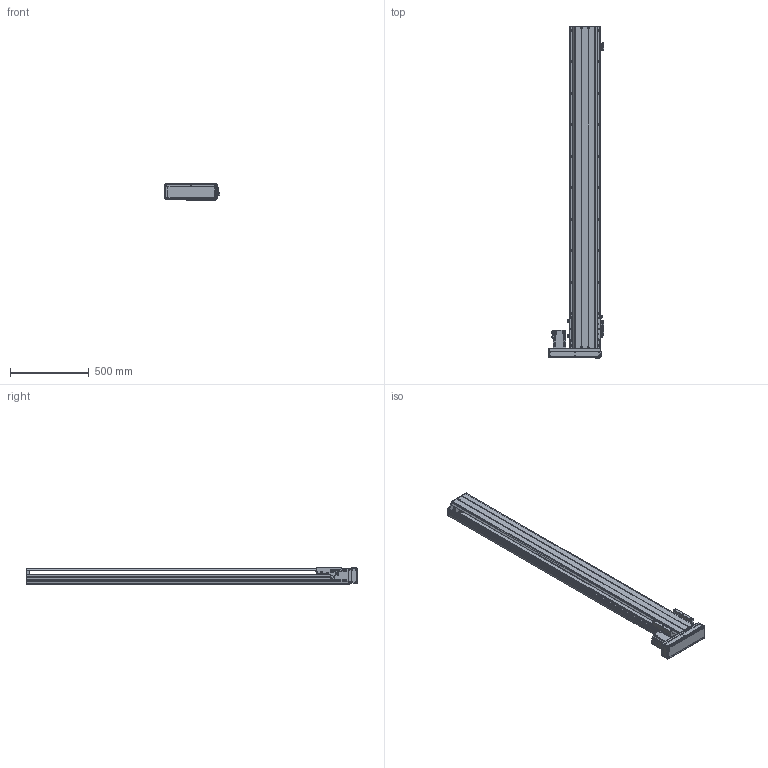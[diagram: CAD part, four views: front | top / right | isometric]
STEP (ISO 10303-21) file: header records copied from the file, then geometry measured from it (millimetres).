
FILE_DESCRIPTION(/* description */ ('MANUFACTURE'),/* implementation_level */ '2;1');
FILE_NAME(/* name */ '\\192.168.0.160\disk1\HAN SHIN Master\B-설계부문\C-표준\B-2024년\BC02-표준도면\+로봇 개선표준도면\표준 승인도 작업 폴더\3D\HG200\HG200병렬\좌병렬\HG200-L70-N-1800-R10.stp',/* time_stamp */ '2024-02-23T16:43:19+09:00',/* author */ ('User'),/* organization */ (''),/* preprocessor_version */ 'ST-DEVELOPER v18.1',/* originating_system */ 'Autodesk Inventor 2022',/* authorisation */ 'LIP');
FILE_SCHEMA (('AUTOMOTIVE_DESIGN { 1 0 10303 214 3 1 1 }'));
Products named in the file (22): HG200-L70-N-0500-R10; HR200 S BASE-개선; HR180 FRONT BLOCK; HR180 FRONT BLOCK_1; HR200 FRONT COVER; HR120 STOPPER; HR200 SENSOR DOG; HR200 S UPCOVER; HR200 TABLE (W,N); 750W MOTOR PLATE; HG200 750W LR MOTOR PLATE-사출; hg-kr73_; 화살표; hsr_ftht_A-M6F_grease_nipple_joint; NIPPLE CAP(신규); HR160 400W LR BELT COVER; HR200 ACRYL COVER -1; HR200 ACRYL COVER -1_1; HR200 ACRYL COVER -1_2; HG200 BOTTOM COVER; SENSOR BRK(EE-SX674A); EE_SX674A
Assembly tree (36 placements, depth 2):
  HG200-L70-N-0500-R10
    HR200 S BASE-개선
    HR180 FRONT BLOCK
    HR180 FRONT BLOCK_1
    HR200 FRONT COVER
    HR120 STOPPER  x2
    HR200 SENSOR DOG
    SENSOR BRK(EE-SX674A)  x3
    EE_SX674A  x3
    HR200 S UPCOVER
    HR200 TABLE (W,N)
    750W MOTOR PLATE
    HG200 750W LR MOTOR PLATE-사출
    hg-kr73_
    화살표  x2
    hsr_ftht_A-M6F_grease_nipple_joint  x5
    NIPPLE CAP(신규)  x5
    HR160 400W LR BELT COVER
    HR200 ACRYL COVER -1
    HR200 ACRYL COVER -1_1
    HR200 ACRYL COVER -1_2  x2
    HG200 BOTTOM COVER
Bounding box: 351 x 2108 x 109 mm (x, y, z)
Volume: 12404246.8 mm3; surface area: 3382790.7 mm2
Topology: 36 solids, 36 shells, 3911 faces, 11044 edges, 7286 vertices
Faces by surface type: plane 2694, cylinder 884, cone 239, sphere 44, torus 30, bspline 20
Full cylindrical faces by diameter (mm): 2.459 x50, 3 x10, 3.242 x18, 3.4 x20, 3.5 x6, 4 x6, 4.134 x10, 4.5 x14, 4.917 x54, 5 x20, 5.5 x5, 5.6 x5, 5.9 x4, 6 x11, 6.5 x10, 6.6 x28, 6.647 x32, 7 x4, 7.6 x4, 8 x4, 9 x34, 9.5 x1, 11 x28, 14 x22, 19 x1, 25 x1, 27 x1, 30 x1, 32 x1, 38 x1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
Entity records: 111720 total; most frequent: CARTESIAN_POINT 21764, ORIENTED_EDGE 18720, DIRECTION 17516, EDGE_CURVE 9360, LINE 7464, VECTOR 7464, VERTEX_POINT 6254, AXIS2_PLACEMENT_3D 5026
